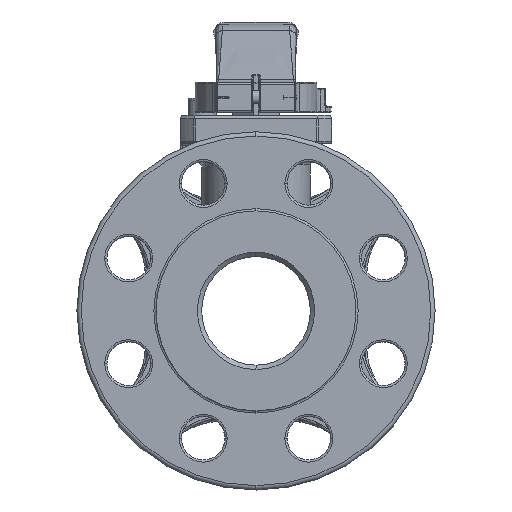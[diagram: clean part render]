
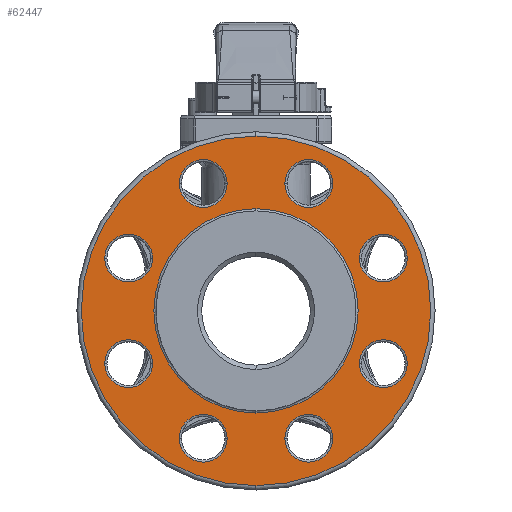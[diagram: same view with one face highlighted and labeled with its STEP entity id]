
A CAD part, left-side view. The second image highlights one B-rep face of the part: STEP entity #62447.
In plain terms, the highlighted planar face has unit normal (-1, 0, 0).
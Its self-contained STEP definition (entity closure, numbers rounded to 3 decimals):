
#1051=CARTESIAN_POINT('',(-88.4,0.,0.));
#1052=DIRECTION('',(-1.,0.,0.));
#1053=DIRECTION('',(0.,0.,1.));
#1054=AXIS2_PLACEMENT_3D('',#1051,#1052,#1053);
#1071=CARTESIAN_POINT('',(-88.4,0.,0.));
#1072=DIRECTION('',(1.,0.,0.));
#1073=DIRECTION('',(0.,0.,-1.));
#1074=AXIS2_PLACEMENT_3D('',#1071,#1072,#1073);
#1094=CARTESIAN_POINT('',(-88.4,0.,0.));
#1095=DIRECTION('',(1.,0.,0.));
#1096=DIRECTION('',(0.,0.,1.));
#1097=AXIS2_PLACEMENT_3D('',#1094,#1095,#1096);
#50035=CARTESIAN_POINT('',(-88.4,-24.3,58.666));
#50036=DIRECTION('',(1.,0.,0.));
#50037=DIRECTION('',(0.,-1.,0.));
#50038=AXIS2_PLACEMENT_3D('',#50035,#50036,#50037);
#50050=CARTESIAN_POINT('',(-88.4,-24.3,58.666));
#50051=DIRECTION('',(1.,0.,0.));
#50052=DIRECTION('',(0.,1.,0.));
#50053=AXIS2_PLACEMENT_3D('',#50050,#50051,#50052);
#50103=CARTESIAN_POINT('',(-88.4,-24.3,-58.666));
#50104=DIRECTION('',(1.,0.,0.));
#50105=DIRECTION('',(0.,-1.,0.));
#50106=AXIS2_PLACEMENT_3D('',#50103,#50104,#50105);
#50118=CARTESIAN_POINT('',(-88.4,-24.3,-58.666));
#50119=DIRECTION('',(1.,0.,0.));
#50120=DIRECTION('',(0.,1.,0.));
#50121=AXIS2_PLACEMENT_3D('',#50118,#50119,#50120);
#50171=CARTESIAN_POINT('',(-88.4,-58.666,24.3));
#50172=DIRECTION('',(1.,0.,0.));
#50173=DIRECTION('',(0.,-1.,0.));
#50174=AXIS2_PLACEMENT_3D('',#50171,#50172,#50173);
#50186=CARTESIAN_POINT('',(-88.4,-58.666,24.3));
#50187=DIRECTION('',(1.,0.,0.));
#50188=DIRECTION('',(0.,1.,0.));
#50189=AXIS2_PLACEMENT_3D('',#50186,#50187,#50188);
#50239=CARTESIAN_POINT('',(-88.4,-58.666,-24.3));
#50240=DIRECTION('',(1.,0.,0.));
#50241=DIRECTION('',(0.,-1.,0.));
#50242=AXIS2_PLACEMENT_3D('',#50239,#50240,#50241);
#50254=CARTESIAN_POINT('',(-88.4,-58.666,-24.3));
#50255=DIRECTION('',(1.,0.,0.));
#50256=DIRECTION('',(0.,1.,0.));
#50257=AXIS2_PLACEMENT_3D('',#50254,#50255,#50256);
#50307=CARTESIAN_POINT('',(-88.4,24.3,58.666));
#50308=DIRECTION('',(1.,0.,0.));
#50309=DIRECTION('',(0.,-1.,0.));
#50310=AXIS2_PLACEMENT_3D('',#50307,#50308,#50309);
#50322=CARTESIAN_POINT('',(-88.4,24.3,58.666));
#50323=DIRECTION('',(1.,0.,0.));
#50324=DIRECTION('',(0.,1.,0.));
#50325=AXIS2_PLACEMENT_3D('',#50322,#50323,#50324);
#50375=CARTESIAN_POINT('',(-88.4,58.666,24.3));
#50376=DIRECTION('',(1.,0.,0.));
#50377=DIRECTION('',(0.,1.,0.));
#50378=AXIS2_PLACEMENT_3D('',#50375,#50376,#50377);
#50390=CARTESIAN_POINT('',(-88.4,58.666,24.3));
#50391=DIRECTION('',(1.,0.,0.));
#50392=DIRECTION('',(0.,-1.,0.));
#50393=AXIS2_PLACEMENT_3D('',#50390,#50391,#50392);
#50443=CARTESIAN_POINT('',(-88.4,58.666,-24.3));
#50444=DIRECTION('',(1.,0.,0.));
#50445=DIRECTION('',(0.,-1.,0.));
#50446=AXIS2_PLACEMENT_3D('',#50443,#50444,#50445);
#50458=CARTESIAN_POINT('',(-88.4,58.666,-24.3));
#50459=DIRECTION('',(1.,0.,0.));
#50460=DIRECTION('',(0.,1.,0.));
#50461=AXIS2_PLACEMENT_3D('',#50458,#50459,#50460);
#50511=CARTESIAN_POINT('',(-88.4,24.3,-58.666));
#50512=DIRECTION('',(1.,0.,0.));
#50513=DIRECTION('',(0.,-1.,0.));
#50514=AXIS2_PLACEMENT_3D('',#50511,#50512,#50513);
#50526=CARTESIAN_POINT('',(-88.4,24.3,-58.666));
#50527=DIRECTION('',(1.,0.,0.));
#50528=DIRECTION('',(0.,1.,0.));
#50529=AXIS2_PLACEMENT_3D('',#50526,#50527,#50528);
#50545=CARTESIAN_POINT('',(-88.4,0.,0.));
#50546=DIRECTION('',(-1.,0.,0.));
#50547=DIRECTION('',(0.,0.,-1.));
#50548=AXIS2_PLACEMENT_3D('',#50545,#50546,#50547);
#50576=CARTESIAN_POINT('',(-88.4,0.,-80.5));
#50577=CARTESIAN_POINT('',(-88.4,0.,80.5));
#50578=VERTEX_POINT('',#50576);
#50579=VERTEX_POINT('',#50577);
#50593=CARTESIAN_POINT('',(-88.4,-35.3,58.666));
#50594=CARTESIAN_POINT('',(-88.4,-13.3,58.666));
#50595=VERTEX_POINT('',#50593);
#50596=VERTEX_POINT('',#50594);
#50601=CARTESIAN_POINT('',(-88.4,-35.3,-58.666));
#50602=CARTESIAN_POINT('',(-88.4,-13.3,-58.666));
#50603=VERTEX_POINT('',#50601);
#50604=VERTEX_POINT('',#50602);
#50609=CARTESIAN_POINT('',(-88.4,-47.666,-24.3));
#50610=CARTESIAN_POINT('',(-88.4,-69.666,-24.3));
#50611=VERTEX_POINT('',#50609);
#50612=VERTEX_POINT('',#50610);
#50617=CARTESIAN_POINT('',(-88.4,-47.666,24.3));
#50618=CARTESIAN_POINT('',(-88.4,-69.666,24.3));
#50619=VERTEX_POINT('',#50617);
#50620=VERTEX_POINT('',#50618);
#52294=CARTESIAN_POINT('',(-88.4,35.3,58.666));
#52295=CARTESIAN_POINT('',(-88.4,13.3,58.666));
#52296=VERTEX_POINT('',#52294);
#52297=VERTEX_POINT('',#52295);
#52302=CARTESIAN_POINT('',(-88.4,47.666,24.3));
#52303=CARTESIAN_POINT('',(-88.4,69.666,24.3));
#52304=VERTEX_POINT('',#52302);
#52305=VERTEX_POINT('',#52303);
#52310=CARTESIAN_POINT('',(-88.4,47.666,-24.3));
#52311=CARTESIAN_POINT('',(-88.4,69.666,-24.3));
#52312=VERTEX_POINT('',#52310);
#52313=VERTEX_POINT('',#52311);
#52318=CARTESIAN_POINT('',(-88.4,35.3,-58.666));
#52319=CARTESIAN_POINT('',(-88.4,13.3,-58.666));
#52320=VERTEX_POINT('',#52318);
#52321=VERTEX_POINT('',#52319);
#52426=CARTESIAN_POINT('',(-88.4,0.,-47.05));
#52427=CARTESIAN_POINT('',(-88.4,0.,47.05));
#52428=VERTEX_POINT('',#52426);
#52429=VERTEX_POINT('',#52427);
#62383=CARTESIAN_POINT('',(-88.4,0.,0.));
#62384=DIRECTION('',(-1.,0.,0.));
#62385=DIRECTION('',(0.,0.,1.));
#62386=AXIS2_PLACEMENT_3D('',#62383,#62384,#62385);
#62387=PLANE('',#62386);
#62389=ORIENTED_EDGE('',*,*,#62388,.T.);
#62391=ORIENTED_EDGE('',*,*,#62390,.T.);
#62392=EDGE_LOOP('',(#62389,#62391));
#62393=FACE_OUTER_BOUND('',#62392,.F.);
#62395=ORIENTED_EDGE('',*,*,#62394,.T.);
#62396=ORIENTED_EDGE('',*,*,#62373,.T.);
#62397=EDGE_LOOP('',(#62395,#62396));
#62398=FACE_BOUND('',#62397,.F.);
#62400=ORIENTED_EDGE('',*,*,#62399,.F.);
#62402=ORIENTED_EDGE('',*,*,#62401,.F.);
#62403=EDGE_LOOP('',(#62400,#62402));
#62404=FACE_BOUND('',#62403,.F.);
#62406=ORIENTED_EDGE('',*,*,#62405,.F.);
#62408=ORIENTED_EDGE('',*,*,#62407,.F.);
#62409=EDGE_LOOP('',(#62406,#62408));
#62410=FACE_BOUND('',#62409,.F.);
#62412=ORIENTED_EDGE('',*,*,#62411,.F.);
#62414=ORIENTED_EDGE('',*,*,#62413,.F.);
#62415=EDGE_LOOP('',(#62412,#62414));
#62416=FACE_BOUND('',#62415,.F.);
#62418=ORIENTED_EDGE('',*,*,#62417,.F.);
#62420=ORIENTED_EDGE('',*,*,#62419,.F.);
#62421=EDGE_LOOP('',(#62418,#62420));
#62422=FACE_BOUND('',#62421,.F.);
#62424=ORIENTED_EDGE('',*,*,#62423,.F.);
#62426=ORIENTED_EDGE('',*,*,#62425,.F.);
#62427=EDGE_LOOP('',(#62424,#62426));
#62428=FACE_BOUND('',#62427,.F.);
#62430=ORIENTED_EDGE('',*,*,#62429,.F.);
#62432=ORIENTED_EDGE('',*,*,#62431,.F.);
#62433=EDGE_LOOP('',(#62430,#62432));
#62434=FACE_BOUND('',#62433,.F.);
#62436=ORIENTED_EDGE('',*,*,#62435,.F.);
#62438=ORIENTED_EDGE('',*,*,#62437,.F.);
#62439=EDGE_LOOP('',(#62436,#62438));
#62440=FACE_BOUND('',#62439,.F.);
#62442=ORIENTED_EDGE('',*,*,#62441,.F.);
#62444=ORIENTED_EDGE('',*,*,#62443,.F.);
#62445=EDGE_LOOP('',(#62442,#62444));
#62446=FACE_BOUND('',#62445,.F.);
#62447=ADVANCED_FACE('',(#62393,#62398,#62404,#62410,#62416,#62422,#62428,
#62434,#62440,#62446),#62387,.T.);
#1055=CIRCLE('',#1054,47.05);
#1075=CIRCLE('',#1074,80.5);
#1098=CIRCLE('',#1097,80.5);
#50039=CIRCLE('',#50038,11.);
#50054=CIRCLE('',#50053,11.);
#50107=CIRCLE('',#50106,11.);
#50122=CIRCLE('',#50121,11.);
#50175=CIRCLE('',#50174,11.);
#50190=CIRCLE('',#50189,11.);
#50243=CIRCLE('',#50242,11.);
#50258=CIRCLE('',#50257,11.);
#50311=CIRCLE('',#50310,11.);
#50326=CIRCLE('',#50325,11.);
#50379=CIRCLE('',#50378,11.);
#50394=CIRCLE('',#50393,11.);
#50447=CIRCLE('',#50446,11.);
#50462=CIRCLE('',#50461,11.);
#50515=CIRCLE('',#50514,11.);
#50530=CIRCLE('',#50529,11.);
#50549=CIRCLE('',#50548,47.05);
#62373=EDGE_CURVE('',#52429,#52428,#1055,.T.);
#62388=EDGE_CURVE('',#50578,#50579,#1075,.T.);
#62390=EDGE_CURVE('',#50579,#50578,#1098,.T.);
#62394=EDGE_CURVE('',#52428,#52429,#50549,.T.);
#62399=EDGE_CURVE('',#50595,#50596,#50039,.T.);
#62401=EDGE_CURVE('',#50596,#50595,#50054,.T.);
#62405=EDGE_CURVE('',#50603,#50604,#50107,.T.);
#62407=EDGE_CURVE('',#50604,#50603,#50122,.T.);
#62411=EDGE_CURVE('',#50611,#50612,#50258,.T.);
#62413=EDGE_CURVE('',#50612,#50611,#50243,.T.);
#62417=EDGE_CURVE('',#50619,#50620,#50190,.T.);
#62419=EDGE_CURVE('',#50620,#50619,#50175,.T.);
#62423=EDGE_CURVE('',#52296,#52297,#50326,.T.);
#62425=EDGE_CURVE('',#52297,#52296,#50311,.T.);
#62429=EDGE_CURVE('',#52304,#52305,#50394,.T.);
#62431=EDGE_CURVE('',#52305,#52304,#50379,.T.);
#62435=EDGE_CURVE('',#52312,#52313,#50447,.T.);
#62437=EDGE_CURVE('',#52313,#52312,#50462,.T.);
#62441=EDGE_CURVE('',#52320,#52321,#50530,.T.);
#62443=EDGE_CURVE('',#52321,#52320,#50515,.T.);
